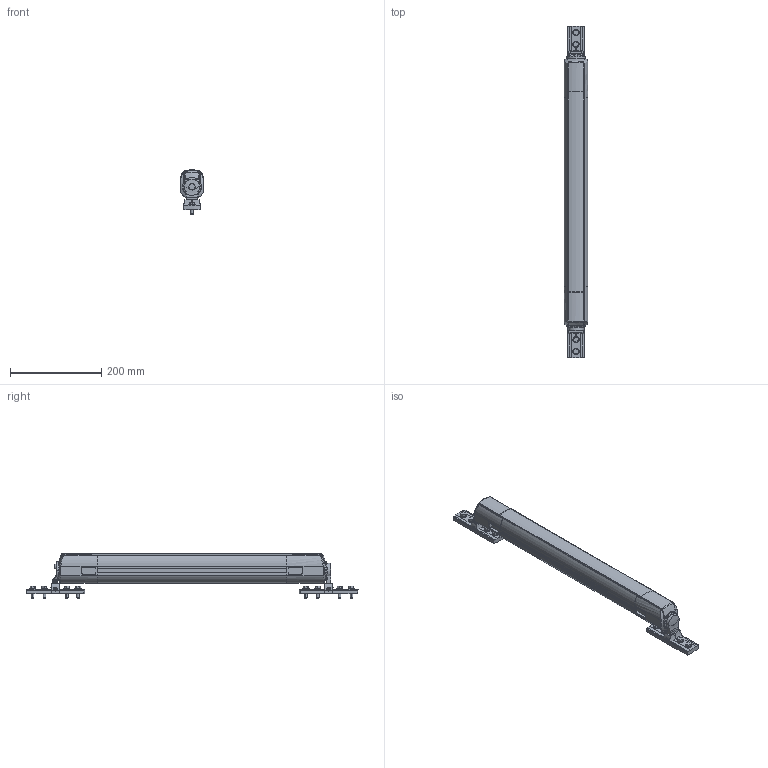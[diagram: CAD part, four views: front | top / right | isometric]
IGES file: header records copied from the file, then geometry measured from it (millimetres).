
Global section: file name: No Iges File Name specified; native system: Autodesk Inventor 2009; preprocessor: AutoDesk Inventor Iges Exporter R2009; author: seisen; date: 20110520.112433; units: millimetre
Bounding box: 52 x 728.9 x 97.3 mm (x, y, z)
Volume: 1380437.8 mm3; surface area: 283048.1 mm2
Topology: 13 solids, 18 shells, 1364 faces, 3775 edges, 2445 vertices
Faces by surface type: plane 579, bspline 259, cylinder 198, revolution 183, cone 92, torus 38, sphere 15
